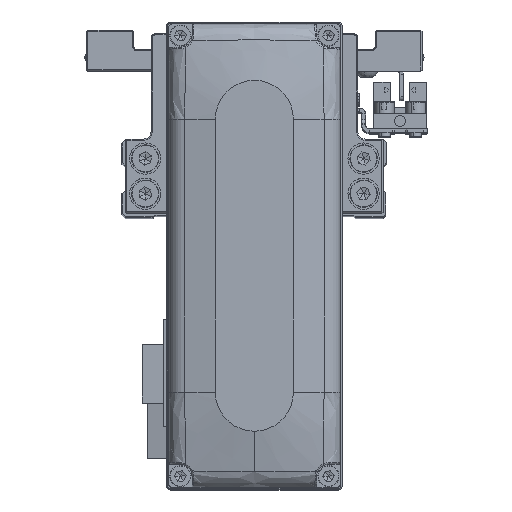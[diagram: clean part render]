
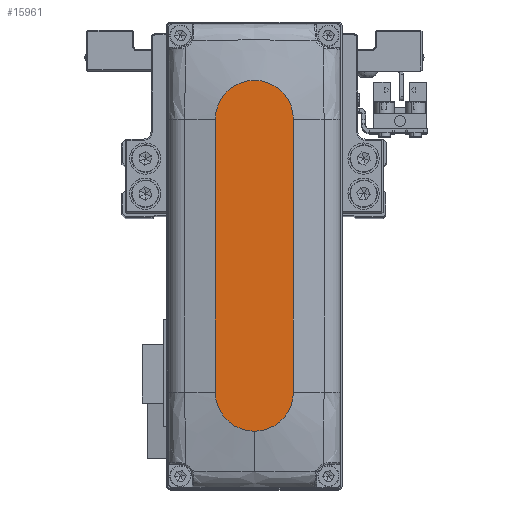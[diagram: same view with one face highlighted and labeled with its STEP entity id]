
A CAD part, top view. The second image highlights one B-rep face of the part: STEP entity #15961.
In plain terms, the highlighted planar face has unit normal (0, 0, 1).
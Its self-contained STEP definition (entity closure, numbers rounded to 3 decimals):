
#673 = CARTESIAN_POINT ( 'NONE',  ( 35., 0., 28. ) ) ;
#830 = EDGE_CURVE ( 'NONE', #11033, #23447, #33627, .T. ) ;
#2575 = CARTESIAN_POINT ( 'NONE',  ( 35., -10., 28. ) ) ;
#2654 = DIRECTION ( 'NONE',  ( 1., 0., 0. ) ) ;
#2968 = DIRECTION ( 'NONE',  ( 1., 0., 0. ) ) ;
#3521 = AXIS2_PLACEMENT_3D ( 'NONE', #17407, #28957, #2968 ) ;
#6614 = CARTESIAN_POINT ( 'NONE',  ( 45., 0., 28. ) ) ;
#8404 = DIRECTION ( 'NONE',  ( 0., 0., 1. ) ) ;
#9832 = CARTESIAN_POINT ( 'NONE',  ( 0., 0., 28. ) ) ;
#11021 = DIRECTION ( 'NONE',  ( -1., 0., 0. ) ) ;
#11033 = VERTEX_POINT ( 'NONE', #6614 ) ;
#11356 = CIRCLE ( 'NONE', #32538, 10. ) ;
#12254 = DIRECTION ( 'NONE',  ( 0., 0., 1. ) ) ;
#12255 = EDGE_CURVE ( 'NONE', #17339, #31614, #11356, .T. ) ;
#12739 = AXIS2_PLACEMENT_3D ( 'NONE', #9832, #21408, #32967 ) ;
#15961 = ADVANCED_FACE ( 'NONE', ( #24251 ), #35814, .T. ) ;
#16438 = EDGE_LOOP ( 'NONE', ( #31096, #19773, #29867, #29138, #25230 ) ) ;
#17080 = LINE ( 'NONE', #28633, #35257 ) ;
#17281 = AXIS2_PLACEMENT_3D ( 'NONE', #673, #12254, #23840 ) ;
#17339 = VERTEX_POINT ( 'NONE', #25570 ) ;
#17407 = CARTESIAN_POINT ( 'NONE',  ( 35., 0., 28. ) ) ;
#19773 = ORIENTED_EDGE ( 'NONE', *, *, #12255, .T. ) ;
#19913 = CIRCLE ( 'NONE', #3521, 10. ) ;
#19998 = DIRECTION ( 'NONE',  ( 1., 0., 0. ) ) ;
#20407 = VERTEX_POINT ( 'NONE', #2575 ) ;
#21408 = DIRECTION ( 'NONE',  ( 0., 0., 1. ) ) ;
#23447 = VERTEX_POINT ( 'NONE', #30974 ) ;
#23840 = DIRECTION ( 'NONE',  ( 1., 0., 0. ) ) ;
#24251 = FACE_OUTER_BOUND ( 'NONE', #16438, .T. ) ;
#24873 = VECTOR ( 'NONE', #11021, 1000. ) ;
#25230 = ORIENTED_EDGE ( 'NONE', *, *, #830, .T. ) ;
#25432 = LINE ( 'NONE', #36999, #24873 ) ;
#25570 = CARTESIAN_POINT ( 'NONE',  ( -35., 10., 28. ) ) ;
#26826 = EDGE_CURVE ( 'NONE', #31614, #20407, #17080, .T. ) ;
#28633 = CARTESIAN_POINT ( 'NONE',  ( -35., -10., 28. ) ) ;
#28957 = DIRECTION ( 'NONE',  ( 0., 0., 1. ) ) ;
#29138 = ORIENTED_EDGE ( 'NONE', *, *, #31097, .T. ) ;
#29305 = CARTESIAN_POINT ( 'NONE',  ( -35., -10., 28. ) ) ;
#29867 = ORIENTED_EDGE ( 'NONE', *, *, #26826, .T. ) ;
#30974 = CARTESIAN_POINT ( 'NONE',  ( 35., 10., 28. ) ) ;
#31096 = ORIENTED_EDGE ( 'NONE', *, *, #34488, .T. ) ;
#31097 = EDGE_CURVE ( 'NONE', #20407, #11033, #19913, .T. ) ;
#31614 = VERTEX_POINT ( 'NONE', #29305 ) ;
#32538 = AXIS2_PLACEMENT_3D ( 'NONE', #34386, #8404, #19998 ) ;
#32967 = DIRECTION ( 'NONE',  ( 1., 0., 0. ) ) ;
#33627 = CIRCLE ( 'NONE', #17281, 10. ) ;
#34386 = CARTESIAN_POINT ( 'NONE',  ( -35., 0., 28. ) ) ;
#34488 = EDGE_CURVE ( 'NONE', #23447, #17339, #25432, .T. ) ;
#35257 = VECTOR ( 'NONE', #2654, 1000. ) ;
#35814 = PLANE ( 'NONE',  #12739 ) ;
#36999 = CARTESIAN_POINT ( 'NONE',  ( -35., 10., 28. ) ) ;
